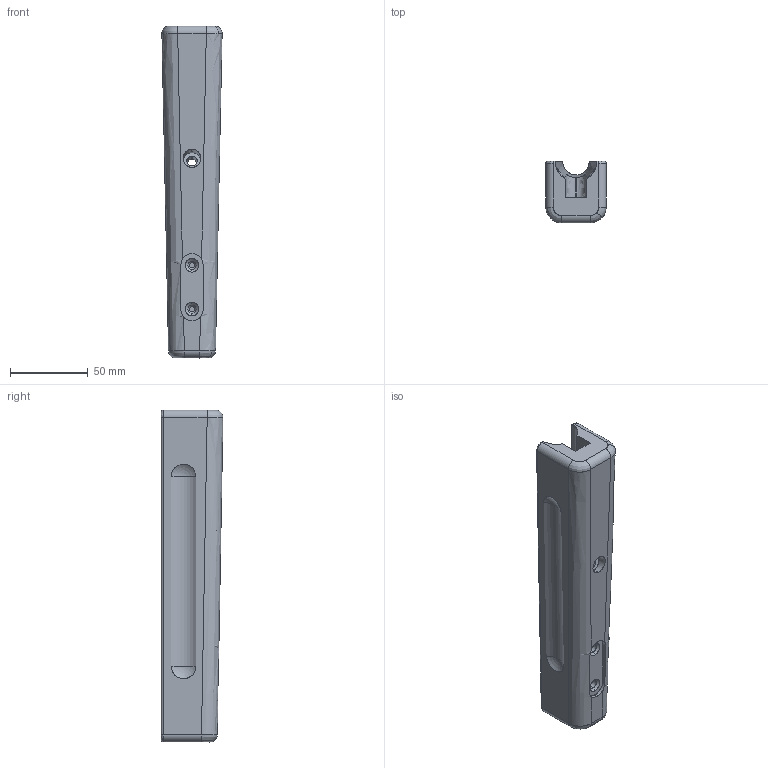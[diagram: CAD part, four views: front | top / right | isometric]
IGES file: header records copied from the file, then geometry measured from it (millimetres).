
Start section: SolidWorks IGES file using analytic representation for surfaces
Global section: file name: C:\Documents and Settings\Wisbith\My Documents\CAD\Thompson SMG\iges\1928 Foregrip.IGS; native system: SolidWorks 2008; preprocessor: SolidWorks 2008; author: Wisbith; date: 100731.003719; units: inch
Bounding box: 38.69 x 39.79 x 213.23 mm (x, y, z)
Surface area: 37638.4 mm2 (no closed solid volume)
Topology: 0 solids, 0 shells, 85 faces, 1130 edges, 1129 vertices
Faces by surface type: revolution 53, bspline 32
